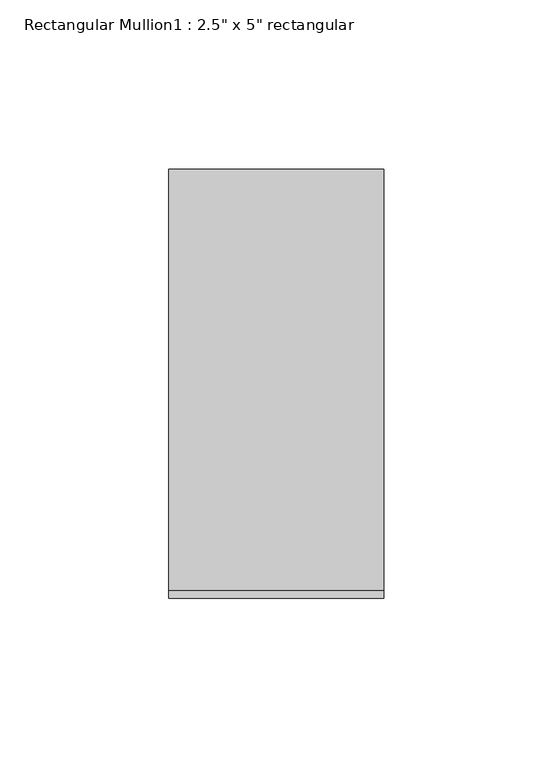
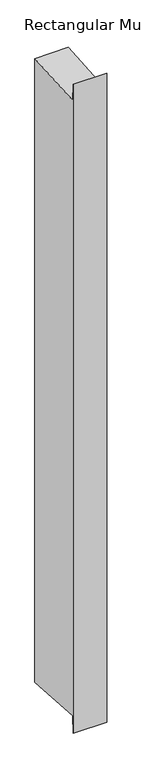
"""IFC4 building model written with IfcOpenShell, lengths in millimetres: member geometry."""

from ifc_helpers import new_model, si_unit, frame, origin, place, context, project, spatial, polyline, outline, extrude, source, transform, mapped, element, save


def member_60f38ea1(model_context):
    return source(origin(), model_context, "Body", "SweptSolid", [
        extrude(outline(polyline([(-63.5, 29.6036678), (-61.2111885, -4.2153013), (63.5, 4.2249441), (63.5, -1253.4859011), (-61.2111885, -1245.0456557), (-63.5, -1278.8646248), (-63.5, 29.6036678)])), frame((-63.5, 0.0, 0.0), z_axis=(1.0, 0.0, 0.0), x_axis=(0.0, 1.0, 0.0)), (0.0, 0.0, 1.0), 63.5),
    ])


if __name__ == "__main__":
    model = new_model("IFC4")
    model_context = context("Model", 3, world=origin())
    ifc_project = project(units=[si_unit("LENGTHUNIT", "METRE", prefix="MILLI")], contexts=[model_context])
    site = spatial("IfcSite", under=ifc_project)
    building = spatial("IfcBuilding", under=site)
    placement = place(None, origin())
    member_shape = member_60f38ea1(model_context)
    element("IfcMember", 1, ObjectType="Rectangular Mullion1 : 2.5\" x 5\" rectangular", at=placement, inside=building, context=model_context, shape_type="MappedRepresentation", body=[
        mapped(member_shape, transform((0.0, 0.0, 0.0), x_axis=(1.0, 0.0, 0.0), y_axis=(0.0, 1.0, 0.0), z_axis=(0.0, 0.0, 1.0))),
    ])
    save(model, "model.ifc")
